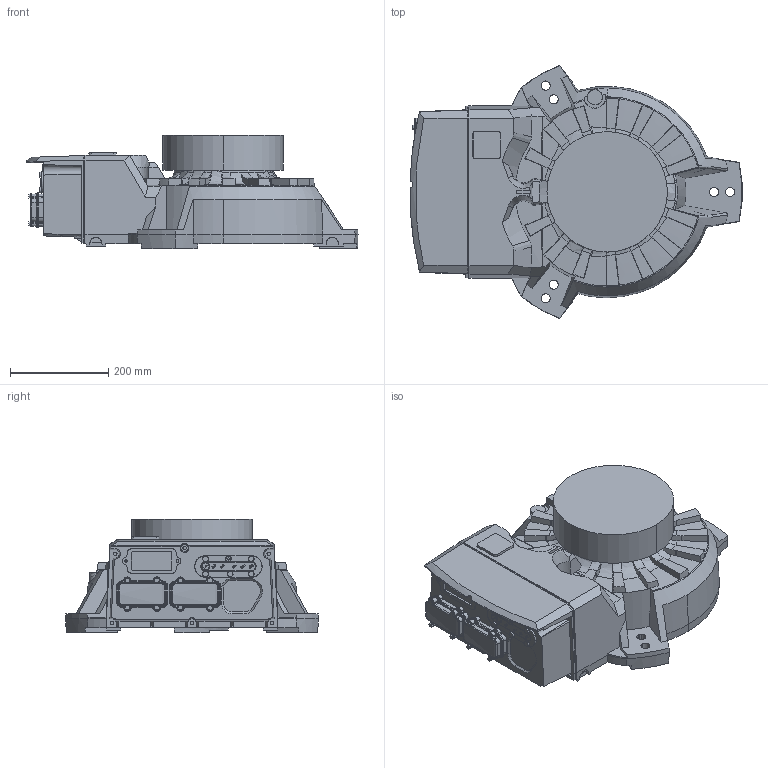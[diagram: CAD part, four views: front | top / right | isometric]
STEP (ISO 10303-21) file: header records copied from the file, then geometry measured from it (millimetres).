
FILE_DESCRIPTION (( 'STEP AP214' ), '1' );
FILE_NAME ('Link0.STEP', '2010-11-24T18:52:31', ( 'Kåre Folkeson' ), ( 'Virtual Manufacturing AB' ), 'SwSTEP 2.0', 'SolidWorks 2009', '' );
FILE_SCHEMA (( 'AUTOMOTIVE_DESIGN' ));
Length unit declared in the file: millimetre
Products named in the file (1): Link0
Bounding box: 675.23 x 514.54 x 230 mm (x, y, z)
Volume: 31823969 mm3; surface area: 1181021.1 mm2
Topology: 19 solids, 31 shells, 1406 faces, 3557 edges, 2255 vertices
Faces by surface type: bspline 601, plane 520, cylinder 285
Entity records: 64802 total; most frequent: CARTESIAN_POINT 26488, ORIENTED_EDGE 7098, DIRECTION 5703, EDGE_CURVE 3549, VERTEX_POINT 2255, AXIS2_PLACEMENT_3D 2103, EDGE_LOOP 1500, VECTOR 1497
